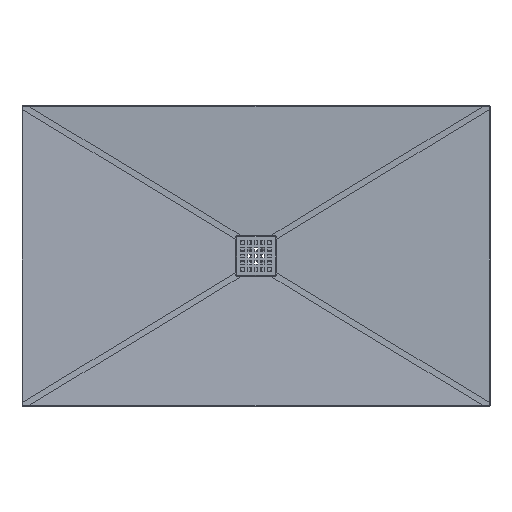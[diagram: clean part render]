
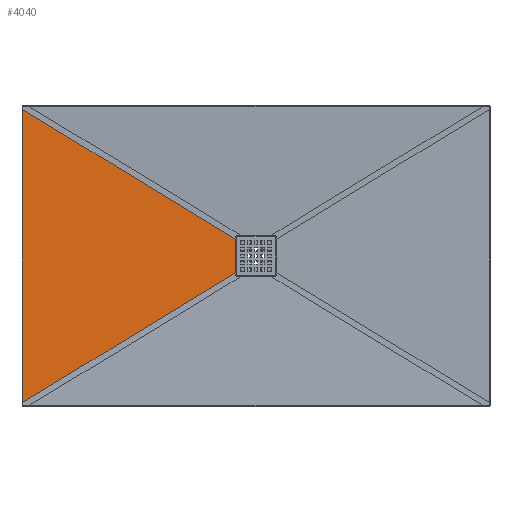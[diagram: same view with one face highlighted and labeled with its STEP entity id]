
A CAD part, top view. The second image highlights one B-rep face of the part: STEP entity #4040.
In plain terms, the highlighted free-form (B-spline) face has degree [1, 1] with [2, 2] control points.
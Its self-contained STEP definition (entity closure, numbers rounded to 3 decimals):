
#343 = CARTESIAN_POINT ( 'NONE',  ( -99.129, -73.303, -18.777 ) ) ;
#862 = B_SPLINE_CURVE_WITH_KNOTS ( 'NONE', 3,
 ( #20195, #29509, #20386, #32583, #3164 ),
 .UNSPECIFIED., .F., .F.,
 ( 4, 1, 4 ),
 ( 0., 37.05, 100.098 ),
 .UNSPECIFIED. ) ;
#1261 = B_SPLINE_SURFACE_WITH_KNOTS ( 'NONE', 1, 1, ( 
 ( #13932, #24954 ),
 ( #16087, #10657 ) ),
 .UNSPECIFIED., .F., .F., .F.,
 ( 2, 2 ),
 ( 2, 2 ),
 ( 0., 878.858 ),
 ( 0., 1. ),
 .UNSPECIFIED. ) ;
#2027 = CARTESIAN_POINT ( 'NONE',  ( -628.533, -395.908, -2.233 ) ) ;
#2244 = CARTESIAN_POINT ( 'NONE',  ( -400.232, 256.787, -9.368 ) ) ;
#2806 = CARTESIAN_POINT ( 'NONE',  ( -236.382, 156.941, -14.488 ) ) ;
#2866 = CARTESIAN_POINT ( 'NONE',  ( -67.377, -53.953, -19.769 ) ) ;
#3164 = CARTESIAN_POINT ( 'NONE',  ( -60.969, -50.049, -19.97 ) ) ;
#3199 = CARTESIAN_POINT ( 'NONE',  ( -180.429, 122.845, -16.237 ) ) ;
#3397 = CARTESIAN_POINT ( 'NONE',  ( -87.638, 66.3, -19.136 ) ) ;
#3596 = CARTESIAN_POINT ( 'NONE',  ( -155.51, 107.66, -17.015 ) ) ;
#4040 = ADVANCED_FACE ( 'NONE', ( #30990 ), #1261, .F. ) ;
#4365 = CARTESIAN_POINT ( 'NONE',  ( -110.98, -80.524, -18.407 ) ) ;
#4747 = CARTESIAN_POINT ( 'NONE',  ( -357.537, -230.77, -10.702 ) ) ;
#5159 = CARTESIAN_POINT ( 'NONE',  ( -567.126, 358.488, -4.152 ) ) ;
#7145 = ORIENTED_EDGE ( 'NONE', *, *, #27756, .F. ) ;
#7301 = CARTESIAN_POINT ( 'NONE',  ( -155.51, -107.66, -17.015 ) ) ;
#7675 = CARTESIAN_POINT ( 'NONE',  ( -674.308, -423.802, -0.803 ) ) ;
#8091 = CARTESIAN_POINT ( 'NONE',  ( -697.938, 438.202, -0.064 ) ) ;
#8845 = CARTESIAN_POINT ( 'NONE',  ( -321.149, 208.596, -11.839 ) ) ;
#9225 = CARTESIAN_POINT ( 'NONE',  ( -60.969, 50.049, -19.97 ) ) ;
#10203 = CARTESIAN_POINT ( 'NONE',  ( -264.043, -173.797, -13.624 ) ) ;
#10418 = ORIENTED_EDGE ( 'NONE', *, *, #30315, .T. ) ;
#10572 = CARTESIAN_POINT ( 'NONE',  ( -400.232, -256.787, -9.368 ) ) ;
#10657 = CARTESIAN_POINT ( 'NONE',  ( -60.968, 59.166, -19.97 ) ) ;
#11532 = CARTESIAN_POINT ( 'NONE',  ( -122.112, 87.308, -18.059 ) ) ;
#11853 = CARTESIAN_POINT ( 'NONE',  ( -697.938, 438.202, -0.064 ) ) ;
#11911 = CARTESIAN_POINT ( 'NONE',  ( -206.197, 138.547, -15.431 ) ) ;
#12312 = CARTESIAN_POINT ( 'NONE',  ( -293.488, 191.74, -12.703 ) ) ;
#13055 = ORIENTED_EDGE ( 'NONE', *, *, #24747, .F. ) ;
#13839 = CARTESIAN_POINT ( 'NONE',  ( -567.126, -358.488, -4.152 ) ) ;
#13932 = CARTESIAN_POINT ( 'NONE',  ( -697.939, -438.202, -0.064 ) ) ;
#14375 = CARTESIAN_POINT ( 'NONE',  ( -697.938, -438.202, -0.064 ) ) ;
#14873 = CARTESIAN_POINT ( 'NONE',  ( -60.969, -50.049, -19.97 ) ) ;
#15322 = CARTESIAN_POINT ( 'NONE',  ( -60.969, 50.049, -19.97 ) ) ;
#16087 = CARTESIAN_POINT ( 'NONE',  ( -697.939, 438.202, -0.064 ) ) ;
#16562 = CARTESIAN_POINT ( 'NONE',  ( -321.149, -208.596, -11.839 ) ) ;
#17295 = CARTESIAN_POINT ( 'NONE',  ( -697.938, -345.834, -0.064 ) ) ;
#17403 = CARTESIAN_POINT ( 'NONE',  ( -87.638, -66.3, -19.136 ) ) ;
#18308 = CARTESIAN_POINT ( 'NONE',  ( -137.195, 96.499, -17.588 ) ) ;
#19079 = CARTESIAN_POINT ( 'NONE',  ( -137.195, -96.499, -17.588 ) ) ;
#19449 = CARTESIAN_POINT ( 'NONE',  ( -507.853, -322.369, -6.005 ) ) ;
#19512 = VERTEX_POINT ( 'NONE', #15322 ) ;
#19717 = EDGE_LOOP ( 'NONE', ( #13055, #35220, #10418, #7145 ) ) ;
#19859 = CARTESIAN_POINT ( 'NONE',  ( -674.308, 423.802, -0.803 ) ) ;
#20105 = EDGE_CURVE ( 'NONE', #33869, #36898, #36217, .T. ) ;
#20195 = CARTESIAN_POINT ( 'NONE',  ( -60.969, 50.049, -19.97 ) ) ;
#20367 = CARTESIAN_POINT ( 'NONE',  ( -697.938, -53.699, -0.064 ) ) ;
#20386 = CARTESIAN_POINT ( 'NONE',  ( -60.969, 4.333, -19.97 ) ) ;
#20674 = CARTESIAN_POINT ( 'NONE',  ( -60.969, -50.049, -19.97 ) ) ;
#21974 = CARTESIAN_POINT ( 'NONE',  ( -236.382, -156.941, -14.488 ) ) ;
#22936 = CARTESIAN_POINT ( 'NONE',  ( -357.537, 230.77, -10.702 ) ) ;
#23311 = CARTESIAN_POINT ( 'NONE',  ( -99.129, 73.303, -18.777 ) ) ;
#23933 = B_SPLINE_CURVE_WITH_KNOTS ( 'NONE', 3,
 ( #36726, #7675, #2027, #13839, #19449, #31261, #10572, #4747, #16562, #25627, #10203, #21974, #33787, #28370, #7301, #19079, #30897, #4365, #343, #17403, #29808, #2866, #32686, #14873 ),
 .UNSPECIFIED., .F., .F.,
 ( 4, 1, 1, 1, 1, 1, 1, 1, 1, 1, 1, 1, 1, 1, 1, 1, 1, 1, 1, 1, 1, 4 ),
 ( 2.416, 85.459, 163.287, 218.225, 293.764, 350.418, 409.315, 443.809, 478.302, 506.524, 547.29, 575.512, 612.607, 637.848, 663.089, 676.971, 690.854, 702.212, 718.619, 731.24, 743.437, 748.598 ),
 .UNSPECIFIED. ) ;
#24747 = EDGE_CURVE ( 'NONE', #36898, #19512, #29779, .T. ) ;
#24954 = CARTESIAN_POINT ( 'NONE',  ( -60.968, -59.166, -19.97 ) ) ;
#25627 = CARTESIAN_POINT ( 'NONE',  ( -293.488, -191.74, -12.703 ) ) ;
#25933 = VERTEX_POINT ( 'NONE', #20674 ) ;
#27756 = EDGE_CURVE ( 'NONE', #19512, #25933, #862, .T. ) ;
#28370 = CARTESIAN_POINT ( 'NONE',  ( -180.429, -122.845, -16.237 ) ) ;
#28770 = CARTESIAN_POINT ( 'NONE',  ( -507.853, 322.369, -6.005 ) ) ;
#29120 = CARTESIAN_POINT ( 'NONE',  ( -697.938, 438.202, -0.064 ) ) ;
#29307 = CARTESIAN_POINT ( 'NONE',  ( -697.938, 238.435, -0.064 ) ) ;
#29509 = CARTESIAN_POINT ( 'NONE',  ( -60.969, 37.699, -19.97 ) ) ;
#29779 = B_SPLINE_CURVE_WITH_KNOTS ( 'NONE', 3,
 ( #8091, #19859, #31672, #5159, #28770, #34782, #2244, #22936, #8845, #12312, #38084, #2806, #11911, #3199, #3596, #18308, #11532, #38278, #23311, #3397, #35946, #35350, #32815, #9225 ),
 .UNSPECIFIED., .F., .F.,
 ( 4, 1, 1, 1, 1, 1, 1, 1, 1, 1, 1, 1, 1, 1, 1, 1, 1, 1, 1, 1, 1, 4 ),
 ( 2.416, 85.459, 163.287, 218.225, 293.764, 350.418, 409.315, 443.809, 478.302, 506.524, 547.29, 575.512, 612.607, 637.848, 663.089, 676.971, 690.854, 702.212, 718.619, 731.24, 743.437, 748.599 ),
 .UNSPECIFIED. ) ;
#29808 = CARTESIAN_POINT ( 'NONE',  ( -75.907, -59.152, -19.503 ) ) ;
#30315 = EDGE_CURVE ( 'NONE', #33869, #25933, #23933, .T. ) ;
#30897 = CARTESIAN_POINT ( 'NONE',  ( -122.112, -87.308, -18.059 ) ) ;
#30990 = FACE_OUTER_BOUND ( 'NONE', #19717, .T. ) ;
#31261 = CARTESIAN_POINT ( 'NONE',  ( -454.606, -289.921, -7.669 ) ) ;
#31672 = CARTESIAN_POINT ( 'NONE',  ( -628.533, 395.908, -2.233 ) ) ;
#32583 = CARTESIAN_POINT ( 'NONE',  ( -60.969, -29.033, -19.97 ) ) ;
#32686 = CARTESIAN_POINT ( 'NONE',  ( -62.438, -50.944, -19.924 ) ) ;
#32815 = CARTESIAN_POINT ( 'NONE',  ( -62.437, 50.944, -19.924 ) ) ;
#33787 = CARTESIAN_POINT ( 'NONE',  ( -206.197, -138.547, -15.431 ) ) ;
#33869 = VERTEX_POINT ( 'NONE', #36384 ) ;
#34782 = CARTESIAN_POINT ( 'NONE',  ( -454.606, 289.921, -7.669 ) ) ;
#35220 = ORIENTED_EDGE ( 'NONE', *, *, #20105, .F. ) ;
#35350 = CARTESIAN_POINT ( 'NONE',  ( -67.377, 53.953, -19.769 ) ) ;
#35946 = CARTESIAN_POINT ( 'NONE',  ( -75.907, 59.152, -19.503 ) ) ;
#36217 = B_SPLINE_CURVE_WITH_KNOTS ( 'NONE', 3,
 ( #14375, #17295, #20367, #29307, #29120 ),
 .UNSPECIFIED., .F., .F.,
 ( 4, 1, 4 ),
 ( 0., 277.104, 876.403 ),
 .UNSPECIFIED. ) ;
#36384 = CARTESIAN_POINT ( 'NONE',  ( -697.938, -438.202, -0.064 ) ) ;
#36726 = CARTESIAN_POINT ( 'NONE',  ( -697.938, -438.202, -0.064 ) ) ;
#36898 = VERTEX_POINT ( 'NONE', #11853 ) ;
#38084 = CARTESIAN_POINT ( 'NONE',  ( -264.043, 173.797, -13.624 ) ) ;
#38278 = CARTESIAN_POINT ( 'NONE',  ( -110.98, 80.524, -18.407 ) ) ;
